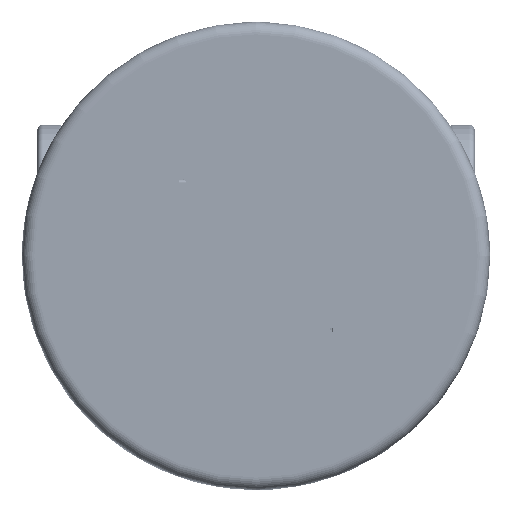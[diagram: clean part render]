
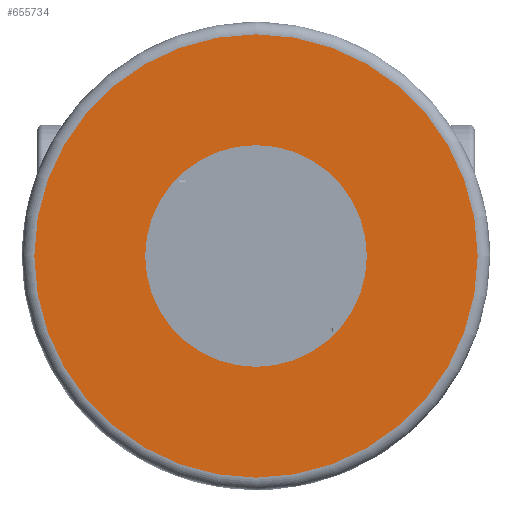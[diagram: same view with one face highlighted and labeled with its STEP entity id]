
A CAD part, top view. The second image highlights one B-rep face of the part: STEP entity #655734.
In plain terms, the highlighted planar face has unit normal (0, 0, 1).
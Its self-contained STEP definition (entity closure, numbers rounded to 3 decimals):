
#654031 = TOROIDAL_SURFACE('',#654032,54.,3.);
#654032 = AXIS2_PLACEMENT_3D('',#654033,#654034,#654035);
#654033 = CARTESIAN_POINT('',(0.,0.,46.));
#654034 = DIRECTION('',(0.,0.,1.));
#654035 = DIRECTION('',(1.,0.,-0.));
#654774 = VERTEX_POINT('',#654775);
#654775 = CARTESIAN_POINT('',(54.,0.,49.));
#654797 = EDGE_CURVE('',#654774,#654774,#654798,.T.);
#654798 = SURFACE_CURVE('',#654799,(#654804,#654811),.PCURVE_S1.);
#654799 = CIRCLE('',#654800,54.);
#654800 = AXIS2_PLACEMENT_3D('',#654801,#654802,#654803);
#654801 = CARTESIAN_POINT('',(0.,0.,49.));
#654802 = DIRECTION('',(0.,0.,1.));
#654803 = DIRECTION('',(1.,0.,-0.));
#654804 = PCURVE('',#654031,#654805);
#654805 = DEFINITIONAL_REPRESENTATION('',(#654806),#654810);
#654806 = LINE('',#654807,#654808);
#654807 = CARTESIAN_POINT('',(0.,1.571));
#654808 = VECTOR('',#654809,1.);
#654809 = DIRECTION('',(1.,0.));
#654810 = ( GEOMETRIC_REPRESENTATION_CONTEXT(2) 
PARAMETRIC_REPRESENTATION_CONTEXT() REPRESENTATION_CONTEXT('2D SPACE',''
  ) );
#654811 = PCURVE('',#654812,#654817);
#654812 = PLANE('',#654813);
#654813 = AXIS2_PLACEMENT_3D('',#654814,#654815,#654816);
#654814 = CARTESIAN_POINT('',(0.,0.,49.));
#654815 = DIRECTION('',(0.,0.,1.));
#654816 = DIRECTION('',(1.,0.,-0.));
#654817 = DEFINITIONAL_REPRESENTATION('',(#654818),#654822);
#654818 = CIRCLE('',#654819,54.);
#654819 = AXIS2_PLACEMENT_2D('',#654820,#654821);
#654820 = CARTESIAN_POINT('',(0.,0.));
#654821 = DIRECTION('',(1.,0.));
#654822 = ( GEOMETRIC_REPRESENTATION_CONTEXT(2) 
PARAMETRIC_REPRESENTATION_CONTEXT() REPRESENTATION_CONTEXT('2D SPACE',''
  ) );
#655734 = ADVANCED_FACE('',(#655735,#655738),#654812,.T.);
#655735 = FACE_BOUND('',#655736,.T.);
#655736 = EDGE_LOOP('',(#655737));
#655737 = ORIENTED_EDGE('',*,*,#654797,.T.);
#655738 = FACE_BOUND('',#655739,.T.);
#655739 = EDGE_LOOP('',(#655740));
#655740 = ORIENTED_EDGE('',*,*,#655741,.F.);
#655741 = EDGE_CURVE('',#655742,#655742,#655744,.T.);
#655742 = VERTEX_POINT('',#655743);
#655743 = CARTESIAN_POINT('',(27.,0.,49.));
#655744 = SURFACE_CURVE('',#655745,(#655750,#655757),.PCURVE_S1.);
#655745 = CIRCLE('',#655746,27.);
#655746 = AXIS2_PLACEMENT_3D('',#655747,#655748,#655749);
#655747 = CARTESIAN_POINT('',(0.,0.,49.));
#655748 = DIRECTION('',(0.,0.,1.));
#655749 = DIRECTION('',(1.,0.,-0.));
#655750 = PCURVE('',#654812,#655751);
#655751 = DEFINITIONAL_REPRESENTATION('',(#655752),#655756);
#655752 = CIRCLE('',#655753,27.);
#655753 = AXIS2_PLACEMENT_2D('',#655754,#655755);
#655754 = CARTESIAN_POINT('',(0.,0.));
#655755 = DIRECTION('',(1.,0.));
#655756 = ( GEOMETRIC_REPRESENTATION_CONTEXT(2) 
PARAMETRIC_REPRESENTATION_CONTEXT() REPRESENTATION_CONTEXT('2D SPACE',''
  ) );
#655757 = PCURVE('',#655758,#655763);
#655758 = CYLINDRICAL_SURFACE('',#655759,27.);
#655759 = AXIS2_PLACEMENT_3D('',#655760,#655761,#655762);
#655760 = CARTESIAN_POINT('',(0.,0.,49.));
#655761 = DIRECTION('',(0.,0.,1.));
#655762 = DIRECTION('',(1.,0.,-0.));
#655763 = DEFINITIONAL_REPRESENTATION('',(#655764),#655768);
#655764 = LINE('',#655765,#655766);
#655765 = CARTESIAN_POINT('',(0.,0.));
#655766 = VECTOR('',#655767,1.);
#655767 = DIRECTION('',(1.,0.));
#655768 = ( GEOMETRIC_REPRESENTATION_CONTEXT(2) 
PARAMETRIC_REPRESENTATION_CONTEXT() REPRESENTATION_CONTEXT('2D SPACE',''
  ) );
